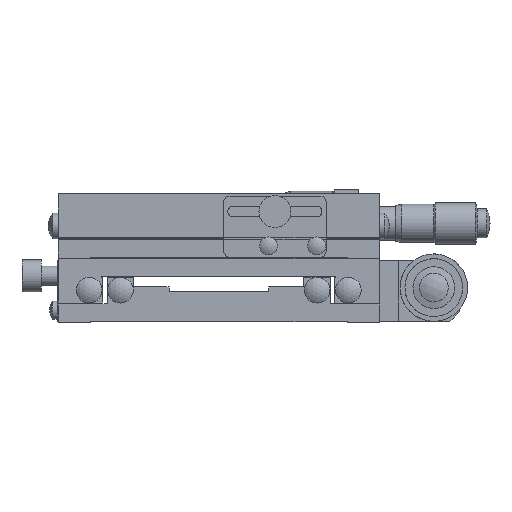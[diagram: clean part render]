
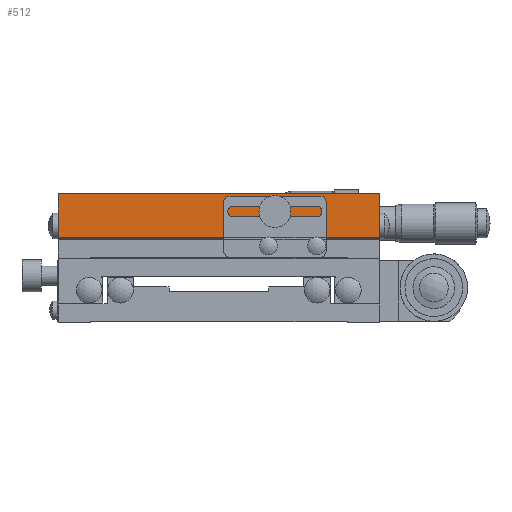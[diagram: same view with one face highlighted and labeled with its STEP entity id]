
A CAD part, left-side view. The second image highlights one B-rep face of the part: STEP entity #512.
In plain terms, the highlighted planar face has unit normal (-1, 0, 0).
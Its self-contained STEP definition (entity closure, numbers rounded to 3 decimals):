
#512 = ADVANCED_FACE( '', ( #1344, #1345 ), #1346, .T. );
#1344 = FACE_OUTER_BOUND( '', #2699, .T. );
#1345 = FACE_BOUND( '', #2700, .T. );
#1346 = PLANE( '', #2701 );
#2699 = EDGE_LOOP( '', ( #4185, #4186, #4187, #4188 ) );
#2700 = EDGE_LOOP( '', ( #4189 ) );
#2701 = AXIS2_PLACEMENT_3D( '', #4190, #4191, #4192 );
#4185 = ORIENTED_EDGE( '', *, *, #7061, .T. );
#4186 = ORIENTED_EDGE( '', *, *, #6882, .T. );
#4187 = ORIENTED_EDGE( '', *, *, #7062, .F. );
#4188 = ORIENTED_EDGE( '', *, *, #7063, .F. );
#4189 = ORIENTED_EDGE( '', *, *, #7064, .T. );
#4190 = CARTESIAN_POINT( '', ( -50., 0., 26.5 ) );
#4191 = DIRECTION( '', ( -1., 0., 0. ) );
#4192 = DIRECTION( '', ( 0., 1., 0. ) );
#6882 = EDGE_CURVE( '', #8028, #8026, #8029, .T. );
#7061 = EDGE_CURVE( '', #8337, #8028, #8338, .T. );
#7062 = EDGE_CURVE( '', #8339, #8026, #8340, .T. );
#7063 = EDGE_CURVE( '', #8337, #8339, #8341, .T. );
#7064 = EDGE_CURVE( '', #8342, #8342, #8343, .F. );
#8026 = VERTEX_POINT( '', #9712 );
#8028 = VERTEX_POINT( '', #9715 );
#8029 = LINE( '', #9716, #9717 );
#8337 = VERTEX_POINT( '', #10114 );
#8338 = LINE( '', #10115, #10116 );
#8339 = VERTEX_POINT( '', #10117 );
#8340 = LINE( '', #10118, #10119 );
#8341 = LINE( '', #10120, #10121 );
#8342 = VERTEX_POINT( '', #10122 );
#8343 = CIRCLE( '', #10123, 1.5 );
#9712 = CARTESIAN_POINT( '', ( -50., -50., 40. ) );
#9715 = CARTESIAN_POINT( '', ( -50., -50., 26.5 ) );
#9716 = CARTESIAN_POINT( '', ( -50., -50., 26.5 ) );
#9717 = VECTOR( '', #11923, 1000. );
#10114 = CARTESIAN_POINT( '', ( -50., 50., 26.5 ) );
#10115 = CARTESIAN_POINT( '', ( -50., 0., 26.5 ) );
#10116 = VECTOR( '', #12167, 1000. );
#10117 = CARTESIAN_POINT( '', ( -50., 50., 40. ) );
#10118 = CARTESIAN_POINT( '', ( -50., 0., 40. ) );
#10119 = VECTOR( '', #12168, 1000. );
#10120 = CARTESIAN_POINT( '', ( -50., 50., 34. ) );
#10121 = VECTOR( '', #12169, 1000. );
#10122 = CARTESIAN_POINT( '', ( -50., -19., 34.5 ) );
#10123 = AXIS2_PLACEMENT_3D( '', #12170, #12171, #12172 );
#11923 = DIRECTION( '', ( 0., 0., 1. ) );
#12167 = DIRECTION( '', ( 0., -1., 0. ) );
#12168 = DIRECTION( '', ( 0., -1., 0. ) );
#12169 = DIRECTION( '', ( 0., 0., 1. ) );
#12170 = CARTESIAN_POINT( '', ( -50., -17.5, 34.5 ) );
#12171 = DIRECTION( '', ( -1., 0., 0. ) );
#12172 = DIRECTION( '', ( 0., -1., 0. ) );
